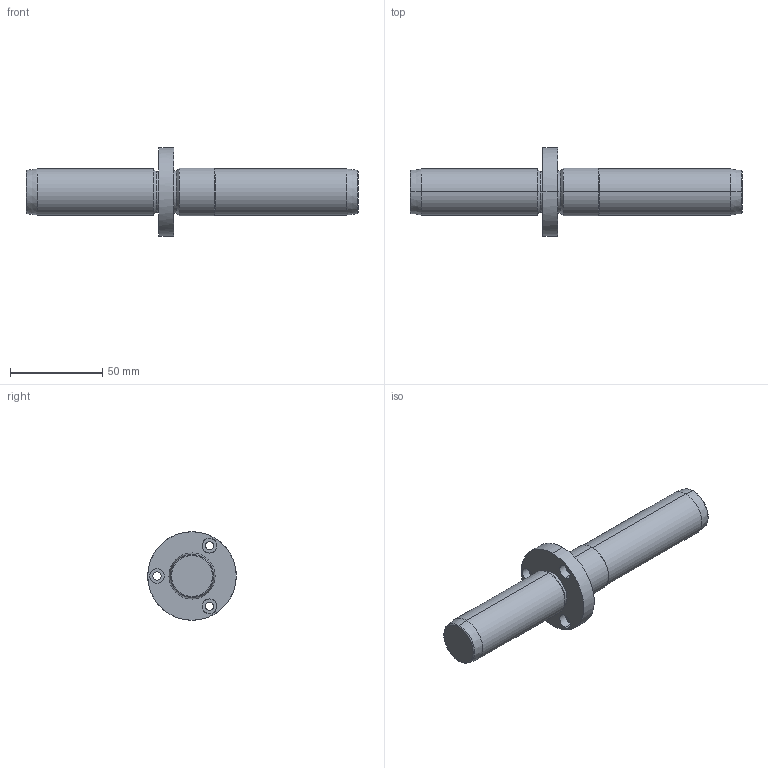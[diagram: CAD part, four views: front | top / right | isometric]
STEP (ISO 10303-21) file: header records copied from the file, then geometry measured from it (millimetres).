
FILE_DESCRIPTION(('CATIA V5 STEP Exchange'),'2;1');
FILE_NAME('C:\Users\Utente\Desktop\IO LAVORO\3D X SITO CF\X SITO\721\721-25x180.stp','2021-01-01T17:30:49+00:00',('none'),('none'),'CATIA Version 5 Release 20 GA (IN-10)','CATIA V5 STEP AP203','none');
FILE_SCHEMA(('CONFIG_CONTROL_DESIGN'));
Length unit declared in the file: millimetre
Products named in the file (1): 721-25x180
Bounding box: 180 x 48 x 48 mm (x, y, z)
Volume: 98033.1 mm3; surface area: 18875.7 mm2
Topology: 1 solids, 1 shells, 45 faces, 150 edges, 112 vertices
Faces by surface type: cylinder 24, cone 10, plane 7, torus 4
Entity records: 2060 total; most frequent: CARTESIAN_POINT 730, ORIENTED_EDGE 300, DIRECTION 206, EDGE_CURVE 150, AXIS2_PLACEMENT_3D 128, VERTEX_POINT 112, CIRCLE 82, EDGE_LOOP 56
